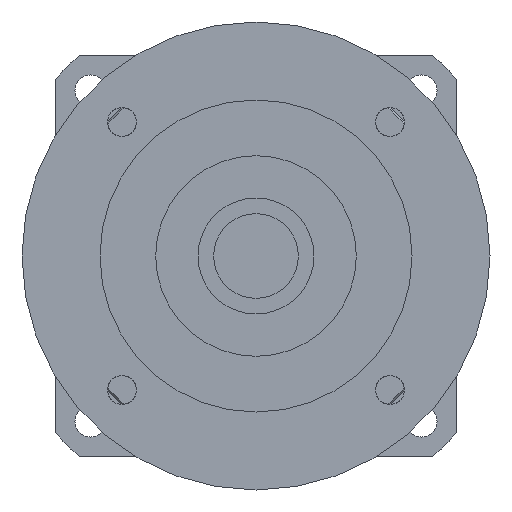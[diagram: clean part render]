
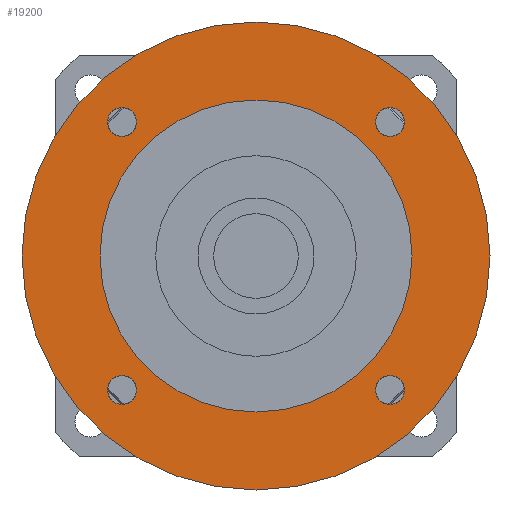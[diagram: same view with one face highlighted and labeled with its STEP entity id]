
A CAD part, left-side view. The second image highlights one B-rep face of the part: STEP entity #19200.
In plain terms, the highlighted planar face has unit normal (-1, 0, 0) as drawn and (0, 0, -1) by its records, which use the part's own axes.
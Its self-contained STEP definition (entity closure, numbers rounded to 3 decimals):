
#17780=CARTESIAN_POINT('',(30.052,-26.802,-117.));
#17790=VERTEX_POINT('',#17780);
#17960=CARTESIAN_POINT('',(30.052,-33.302,-117.));
#17970=VERTEX_POINT('',#17960);
#18000=CARTESIAN_POINT('',(30.052,-30.052,-117.));
#18010=DIRECTION('',(0.,0.,-1.));
#18020=DIRECTION('',(1.,0.,0.));
#18030=AXIS2_PLACEMENT_3D('',#18000,#18010,#18020);
#18040=CIRCLE('',#18030,3.25);
#18050=CARTESIAN_POINT('',(33.302,-30.052,-117.));
#18060=VERTEX_POINT('',#18050);
#18070=EDGE_CURVE('',#18060,#17970,#18040,.T.);
#18090=EDGE_CURVE('',#17790,#18060,#18040,.T.);
#18140=CARTESIAN_POINT('',(0.,0.,
-117.));
#18150=DIRECTION('',(0.,0.,1.));
#18160=DIRECTION('',(-1.,0.,0.));
#18170=AXIS2_PLACEMENT_3D('',#18140,#18150,#18160);
#18180=PLANE('',#18170);
#18190=ORIENTED_EDGE('',*,*,#18070,.F.);
#18200=EDGE_CURVE('',#17970,#17790,#18040,.T.);
#18210=ORIENTED_EDGE('',*,*,#18200,.F.);
#18220=ORIENTED_EDGE('',*,*,#18090,.F.);
#18230=EDGE_LOOP('',(#18220,#18210,#18190));
#18240=FACE_BOUND('',#18230,.T.);
#18250=CARTESIAN_POINT('',(30.052,30.052,-117.));
#18260=DIRECTION('',(0.,0.,-1.));
#18270=DIRECTION('',(0.,1.,0.));
#18280=AXIS2_PLACEMENT_3D('',#18250,#18260,#18270);
#18290=CIRCLE('',#18280,3.25);
#18300=CARTESIAN_POINT('',(30.052,33.302,-117.));
#18310=VERTEX_POINT('',#18300);
#18320=CARTESIAN_POINT('',(33.302,30.052,-117.));
#18330=VERTEX_POINT('',#18320);
#18340=EDGE_CURVE('',#18310,#18330,#18290,.T.);
#18350=ORIENTED_EDGE('',*,*,#18340,.F.);
#18360=CARTESIAN_POINT('',(26.802,30.052,-117.));
#18370=VERTEX_POINT('',#18360);
#18380=EDGE_CURVE('',#18330,#18370,#18290,.T.);
#18390=ORIENTED_EDGE('',*,*,#18380,.F.);
#18400=EDGE_CURVE('',#18370,#18310,#18290,.T.);
#18410=ORIENTED_EDGE('',*,*,#18400,.F.);
#18420=EDGE_LOOP('',(#18410,#18390,#18350));
#18430=FACE_BOUND('',#18420,.T.);
#18440=CARTESIAN_POINT('',(-30.052,30.052,-117.));
#18450=DIRECTION('',(0.,0.,-1.));
#18460=DIRECTION('',(-1.,0.,0.));
#18470=AXIS2_PLACEMENT_3D('',#18440,#18450,#18460);
#18480=CIRCLE('',#18470,3.25);
#18490=CARTESIAN_POINT('',(-33.302,30.052,-117.));
#18500=VERTEX_POINT('',#18490);
#18510=CARTESIAN_POINT('',(-30.052,33.302,-117.));
#18520=VERTEX_POINT('',#18510);
#18530=EDGE_CURVE('',#18500,#18520,#18480,.T.);
#18540=ORIENTED_EDGE('',*,*,#18530,.F.);
#18550=CARTESIAN_POINT('',(-30.052,26.802,-117.));
#18560=VERTEX_POINT('',#18550);
#18570=EDGE_CURVE('',#18520,#18560,#18480,.T.);
#18580=ORIENTED_EDGE('',*,*,#18570,.F.);
#18590=EDGE_CURVE('',#18560,#18500,#18480,.T.);
#18600=ORIENTED_EDGE('',*,*,#18590,.F.);
#18610=EDGE_LOOP('',(#18600,#18580,#18540));
#18620=FACE_BOUND('',#18610,.T.);
#18630=CARTESIAN_POINT('',(-30.052,-30.052,-117.));
#18640=DIRECTION('',(0.,0.,-1.));
#18650=DIRECTION('',(0.,-1.,0.));
#18660=AXIS2_PLACEMENT_3D('',#18630,#18640,#18650);
#18670=CIRCLE('',#18660,3.25);
#18680=CARTESIAN_POINT('',(-30.052,-33.302,-117.));
#18690=VERTEX_POINT('',#18680);
#18700=CARTESIAN_POINT('',(-33.302,-30.052,-117.));
#18710=VERTEX_POINT('',#18700);
#18720=EDGE_CURVE('',#18690,#18710,#18670,.T.);
#18730=ORIENTED_EDGE('',*,*,#18720,.F.);
#18740=CARTESIAN_POINT('',(-26.802,-30.052,-117.));
#18750=VERTEX_POINT('',#18740);
#18760=EDGE_CURVE('',#18710,#18750,#18670,.T.);
#18770=ORIENTED_EDGE('',*,*,#18760,.F.);
#18780=EDGE_CURVE('',#18750,#18690,#18670,.T.);
#18790=ORIENTED_EDGE('',*,*,#18780,.F.);
#18800=EDGE_LOOP('',(#18790,#18770,#18730));
#18810=FACE_BOUND('',#18800,.T.);
#18820=CARTESIAN_POINT('',(0.,0.,
-117.));
#18830=DIRECTION('',(0.,0.,1.));
#18840=DIRECTION('',(0.,-1.,0.));
#18850=AXIS2_PLACEMENT_3D('',#18820,#18830,#18840);
#18860=CIRCLE('',#18850,52.5);
#18870=CARTESIAN_POINT('',(0.,-52.5,-117.));
#18880=VERTEX_POINT('',#18870);
#18890=CARTESIAN_POINT('',(52.5,0.,-117.));
#18900=VERTEX_POINT('',#18890);
#18910=EDGE_CURVE('',#18880,#18900,#18860,.T.);
#18920=ORIENTED_EDGE('',*,*,#18910,.F.);
#18930=CARTESIAN_POINT('',(-52.5,0.,-117.));
#18940=VERTEX_POINT('',#18930);
#18950=EDGE_CURVE('',#18900,#18940,#18860,.T.);
#18960=ORIENTED_EDGE('',*,*,#18950,.F.);
#18970=EDGE_CURVE('',#18940,#18880,#18860,.T.);
#18980=ORIENTED_EDGE('',*,*,#18970,.F.);
#18990=EDGE_LOOP('',(#18980,#18960,#18920));
#19000=FACE_OUTER_BOUND('',#18990,.T.);
#19010=CARTESIAN_POINT('',(0.,0.,
-117.));
#19020=DIRECTION('',(0.,0.,1.));
#19030=DIRECTION('',(0.,-1.,0.));
#19040=AXIS2_PLACEMENT_3D('',#19010,#19020,#19030);
#19050=CIRCLE('',#19040,35.);
#19060=CARTESIAN_POINT('',(35.,0.,-117.));
#19070=VERTEX_POINT('',#19060);
#19080=CARTESIAN_POINT('',(-35.,0.,-117.));
#19090=VERTEX_POINT('',#19080);
#19100=EDGE_CURVE('',#19070,#19090,#19050,.T.);
#19110=ORIENTED_EDGE('',*,*,#19100,.T.);
#19120=CARTESIAN_POINT('',(0.,-35.,-117.));
#19130=VERTEX_POINT('',#19120);
#19140=EDGE_CURVE('',#19130,#19070,#19050,.T.);
#19150=ORIENTED_EDGE('',*,*,#19140,.T.);
#19160=EDGE_CURVE('',#19090,#19130,#19050,.T.);
#19170=ORIENTED_EDGE('',*,*,#19160,.T.);
#19180=EDGE_LOOP('',(#19170,#19150,#19110));
#19190=FACE_BOUND('',#19180,.T.);
#19200=ADVANCED_FACE('',(#18240,#18430,#18620,#18810,#19000,#19190),
#18180,.F.);
